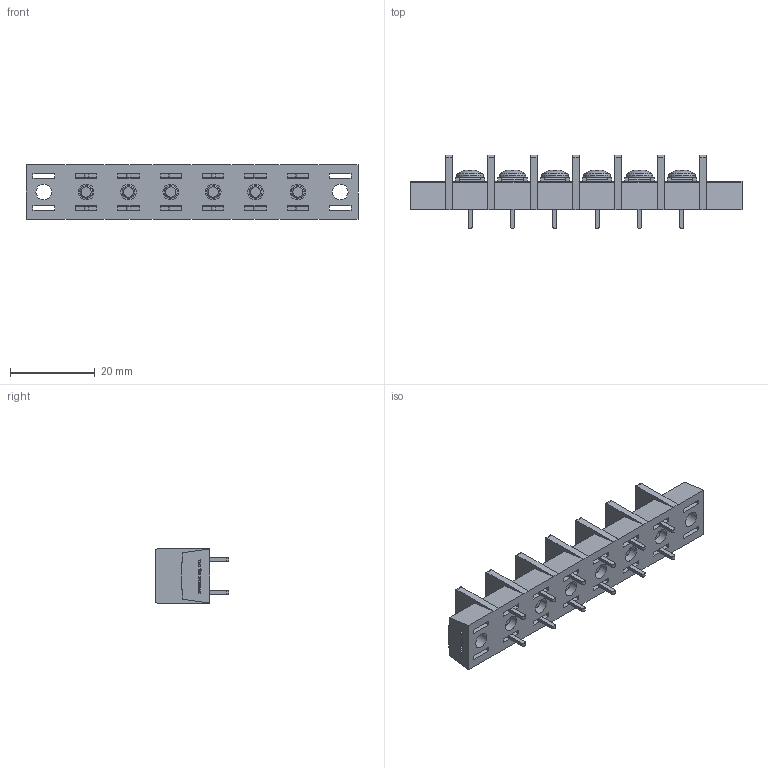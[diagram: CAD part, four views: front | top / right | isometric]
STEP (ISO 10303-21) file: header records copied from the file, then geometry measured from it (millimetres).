
FILE_DESCRIPTION(/* description */ ('Alibre Inc.'),/* implementation_level */ '2;1');
FILE_NAME(/* name */ 'export0',/* time_stamp */ '2015-10-23T18:50:20+09:00',/* author */ (''),/* organization */ (''),/* preprocessor_version */ 'ST-DEVELOPER v14',/* originating_system */ 'Alibre',/* authorisation */ '');
FILE_SCHEMA (('CONFIG_CONTROL_DESIGN'));
Length unit declared in the file: centimetre
Products named in the file (1): ID_1
Bounding box: 78.4 x 17.3 x 12.8 mm (x, y, z)
Volume: 6770.9 mm3; surface area: 7924.5 mm2
Topology: 1 solids, 103 shells, 2122 faces, 5464 edges, 3614 vertices
Faces by surface type: plane 1586, bspline 416, cylinder 72, cone 30, torus 12, sphere 6
Full cylindrical faces by diameter (mm): 3 x12, 3.7 x8, 4.6 x8, 6.3 x6
Entity records: 61591 total; most frequent: CARTESIAN_POINT 14879, ORIENTED_EDGE 10808, DIRECTION 6450, EDGE_CURVE 5404, VECTOR 4168, LINE 4168, VERTEX_POINT 3606, EDGE_LOOP 2336
